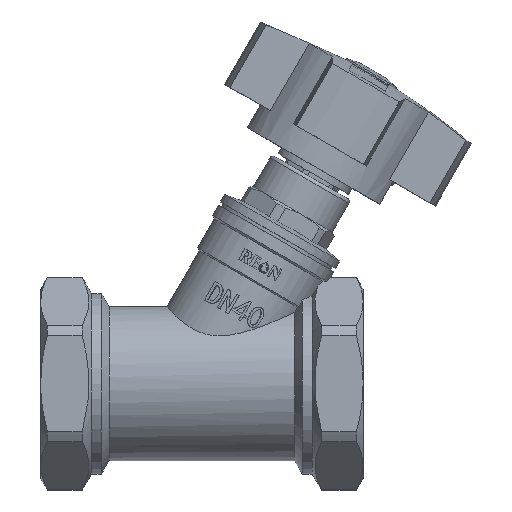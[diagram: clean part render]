
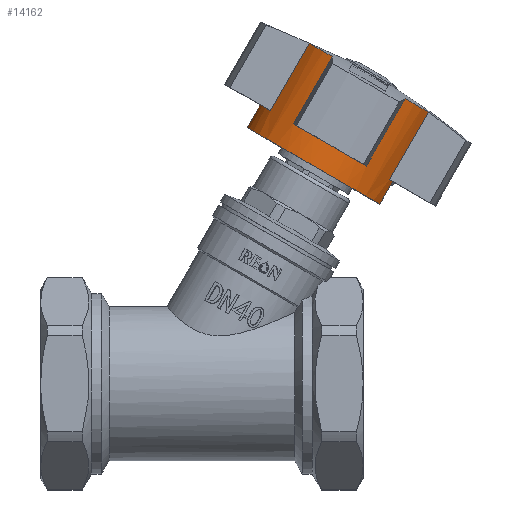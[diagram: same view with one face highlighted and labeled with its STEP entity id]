
A CAD part, top view. The second image highlights one B-rep face of the part: STEP entity #14162.
In plain terms, the highlighted cylindrical face has radius 23 mm (diameter 46 mm), a partial arc.
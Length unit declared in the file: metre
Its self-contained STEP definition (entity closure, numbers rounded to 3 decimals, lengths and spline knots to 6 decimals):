
#1362=CIRCLE('',#15225,0.023);
#1366=CIRCLE('',#15229,0.023);
#1370=CIRCLE('',#15233,0.023);
#1374=CIRCLE('',#15237,0.023);
#1452=CIRCLE('',#15336,0.023);
#1455=CIRCLE('',#15340,0.023);
#1458=CIRCLE('',#15344,0.023);
#1459=CIRCLE('',#15345,0.023);
#1463=CIRCLE('',#15351,0.023);
#1466=CIRCLE('',#15355,0.023);
#2110=FACE_OUTER_BOUND('',#3008,.T.);
#3008=EDGE_LOOP('',(#10675,#10676,#10677,#10678,#10679,#10680,#10681,#10682,
#10683,#10684,#10685,#10686,#10687,#10688,#10689,#10690,#10691,#10692,#10693,
#10694));
#4119=LINE('',#30393,#4986);
#4120=LINE('',#30396,#4987);
#4121=LINE('',#30397,#4988);
#4122=LINE('',#30398,#4989);
#4123=LINE('',#30399,#4990);
#4124=LINE('',#30400,#4991);
#4125=LINE('',#30401,#4992);
#4126=LINE('',#30402,#4993);
#4127=LINE('',#30403,#4994);
#4128=LINE('',#30404,#4995);
#4986=VECTOR('',#17696,1.);
#4987=VECTOR('',#17699,1.);
#4988=VECTOR('',#17700,1.);
#4989=VECTOR('',#17701,1.);
#4990=VECTOR('',#17702,1.);
#4991=VECTOR('',#17703,1.);
#4992=VECTOR('',#17704,1.);
#4993=VECTOR('',#17705,1.);
#4994=VECTOR('',#17706,1.);
#4995=VECTOR('',#17707,1.);
#6003=VERTEX_POINT('',#30045);
#6004=VERTEX_POINT('',#30047);
#6007=VERTEX_POINT('',#30053);
#6008=VERTEX_POINT('',#30055);
#6011=VERTEX_POINT('',#30061);
#6012=VERTEX_POINT('',#30063);
#6015=VERTEX_POINT('',#30069);
#6016=VERTEX_POINT('',#30071);
#6131=VERTEX_POINT('',#30325);
#6132=VERTEX_POINT('',#30327);
#6137=VERTEX_POINT('',#30339);
#6138=VERTEX_POINT('',#30341);
#6143=VERTEX_POINT('',#30353);
#6144=VERTEX_POINT('',#30355);
#6145=VERTEX_POINT('',#30358);
#6146=VERTEX_POINT('',#30360);
#6153=VERTEX_POINT('',#30378);
#6154=VERTEX_POINT('',#30380);
#6159=VERTEX_POINT('',#30392);
#6160=VERTEX_POINT('',#30394);
#7666=EDGE_CURVE('',#6004,#6003,#1362,.T.);
#7670=EDGE_CURVE('',#6008,#6007,#1366,.T.);
#7674=EDGE_CURVE('',#6012,#6011,#1370,.T.);
#7678=EDGE_CURVE('',#6016,#6015,#1374,.T.);
#7797=EDGE_CURVE('',#6132,#6131,#1452,.T.);
#7804=EDGE_CURVE('',#6138,#6137,#1455,.T.);
#7811=EDGE_CURVE('',#6144,#6143,#1458,.T.);
#7814=EDGE_CURVE('',#6146,#6145,#1459,.T.);
#7825=EDGE_CURVE('',#6153,#6154,#1463,.T.);
#7830=EDGE_CURVE('',#6159,#6143,#4119,.T.);
#7831=EDGE_CURVE('',#6160,#6159,#1466,.T.);
#7832=EDGE_CURVE('',#6146,#6160,#4120,.T.);
#7833=EDGE_CURVE('',#6016,#6145,#4121,.T.);
#7834=EDGE_CURVE('',#6015,#6138,#4122,.T.);
#7835=EDGE_CURVE('',#6012,#6137,#4123,.T.);
#7836=EDGE_CURVE('',#6011,#6132,#4124,.T.);
#7837=EDGE_CURVE('',#6008,#6131,#4125,.T.);
#7838=EDGE_CURVE('',#6007,#6153,#4126,.T.);
#7839=EDGE_CURVE('',#6004,#6154,#4127,.T.);
#7840=EDGE_CURVE('',#6003,#6144,#4128,.T.);
#10675=ORIENTED_EDGE('',*,*,#7830,.F.);
#10676=ORIENTED_EDGE('',*,*,#7831,.F.);
#10677=ORIENTED_EDGE('',*,*,#7832,.F.);
#10678=ORIENTED_EDGE('',*,*,#7814,.T.);
#10679=ORIENTED_EDGE('',*,*,#7833,.F.);
#10680=ORIENTED_EDGE('',*,*,#7678,.T.);
#10681=ORIENTED_EDGE('',*,*,#7834,.T.);
#10682=ORIENTED_EDGE('',*,*,#7804,.T.);
#10683=ORIENTED_EDGE('',*,*,#7835,.F.);
#10684=ORIENTED_EDGE('',*,*,#7674,.T.);
#10685=ORIENTED_EDGE('',*,*,#7836,.T.);
#10686=ORIENTED_EDGE('',*,*,#7797,.T.);
#10687=ORIENTED_EDGE('',*,*,#7837,.F.);
#10688=ORIENTED_EDGE('',*,*,#7670,.T.);
#10689=ORIENTED_EDGE('',*,*,#7838,.T.);
#10690=ORIENTED_EDGE('',*,*,#7825,.T.);
#10691=ORIENTED_EDGE('',*,*,#7839,.F.);
#10692=ORIENTED_EDGE('',*,*,#7666,.T.);
#10693=ORIENTED_EDGE('',*,*,#7840,.T.);
#10694=ORIENTED_EDGE('',*,*,#7811,.T.);
#13705=CYLINDRICAL_SURFACE('',#15354,0.023);
#14162=ADVANCED_FACE('',(#2110),#13705,.T.);
#15225=AXIS2_PLACEMENT_3D('',#30048,#17376,#17377);
#15229=AXIS2_PLACEMENT_3D('',#30056,#17384,#17385);
#15233=AXIS2_PLACEMENT_3D('',#30064,#17392,#17393);
#15237=AXIS2_PLACEMENT_3D('',#30072,#17400,#17401);
#15336=AXIS2_PLACEMENT_3D('',#30328,#17639,#17640);
#15340=AXIS2_PLACEMENT_3D('',#30342,#17651,#17652);
#15344=AXIS2_PLACEMENT_3D('',#30356,#17663,#17664);
#15345=AXIS2_PLACEMENT_3D('',#30361,#17667,#17668);
#15351=AXIS2_PLACEMENT_3D('',#30382,#17686,#17687);
#15354=AXIS2_PLACEMENT_3D('',#30391,#17694,#17695);
#15355=AXIS2_PLACEMENT_3D('',#30395,#17697,#17698);
#17376=DIRECTION('center_axis',(-0.5,-0.866,0.));
#17377=DIRECTION('ref_axis',(0.,0.,-1.));
#17384=DIRECTION('center_axis',(-0.5,-0.866,0.));
#17385=DIRECTION('ref_axis',(0.866,-0.5,0.));
#17392=DIRECTION('center_axis',(-0.5,-0.866,0.));
#17393=DIRECTION('ref_axis',(0.866,-0.5,0.));
#17400=DIRECTION('center_axis',(-0.5,-0.866,0.));
#17401=DIRECTION('ref_axis',(0.,0.,
-1.));
#17639=DIRECTION('center_axis',(-0.5,-0.866,0.));
#17640=DIRECTION('ref_axis',(0.866,-0.5,0.));
#17651=DIRECTION('center_axis',(-0.5,-0.866,0.));
#17652=DIRECTION('ref_axis',(0.866,-0.5,0.));
#17663=DIRECTION('center_axis',(-0.5,-0.866,0.));
#17664=DIRECTION('ref_axis',(0.866,-0.5,0.));
#17667=DIRECTION('center_axis',(-0.5,-0.866,0.));
#17668=DIRECTION('ref_axis',(0.866,-0.5,0.));
#17686=DIRECTION('center_axis',(-0.5,-0.866,0.));
#17687=DIRECTION('ref_axis',(0.866,-0.5,0.));
#17694=DIRECTION('center_axis',(-0.5,-0.866,0.));
#17695=DIRECTION('ref_axis',(-0.866,0.5,0.));
#17696=DIRECTION('',(0.5,0.866,0.));
#17697=DIRECTION('center_axis',(-0.5,-0.866,0.));
#17698=DIRECTION('ref_axis',(0.866,-0.5,0.));
#17699=DIRECTION('',(-0.5,-0.866,0.));
#17700=DIRECTION('',(-0.5,-0.866,0.));
#17701=DIRECTION('',(-0.5,-0.866,0.));
#17702=DIRECTION('',(-0.5,-0.866,0.));
#17703=DIRECTION('',(-0.5,-0.866,0.));
#17704=DIRECTION('',(-0.5,-0.866,0.));
#17705=DIRECTION('',(-0.5,-0.866,0.));
#17706=DIRECTION('',(-0.5,-0.866,0.));
#17707=DIRECTION('',(-0.5,-0.866,0.));
#30045=CARTESIAN_POINT('',(0.064615,0.077494,-0.012));
#30047=CARTESIAN_POINT('',(0.058015,0.081305,-0.019621));
#30048=CARTESIAN_POINT('Origin',(0.047623,0.087305,
0.));
#30053=CARTESIAN_POINT('',(0.03723,0.093305,-0.019621));
#30055=CARTESIAN_POINT('',(0.03063,0.097116,-0.012));
#30056=CARTESIAN_POINT('Origin',(0.047623,0.087305,
0.));
#30061=CARTESIAN_POINT('',(0.03063,0.097116,0.012));
#30063=CARTESIAN_POINT('',(0.03723,0.093305,0.019621));
#30064=CARTESIAN_POINT('Origin',(0.047623,0.087305,
0.));
#30069=CARTESIAN_POINT('',(0.058015,0.081305,0.019621));
#30071=CARTESIAN_POINT('',(0.064615,0.077494,0.012));
#30072=CARTESIAN_POINT('Origin',(0.047623,0.087305,
0.));
#30325=CARTESIAN_POINT('',(0.019534,0.077898,-0.012));
#30327=CARTESIAN_POINT('',(0.019534,0.077898,0.012));
#30328=CARTESIAN_POINT('Origin',(0.036527,0.068087,
0.));
#30339=CARTESIAN_POINT('',(0.026135,0.074087,0.019621));
#30341=CARTESIAN_POINT('',(0.046919,0.062087,0.019621));
#30342=CARTESIAN_POINT('Origin',(0.036527,0.068087,
0.));
#30353=CARTESIAN_POINT('',(0.054464,0.057731,-0.01));
#30355=CARTESIAN_POINT('',(0.05352,0.058276,-0.012));
#30356=CARTESIAN_POINT('Origin',(0.036527,0.068087,
0.));
#30358=CARTESIAN_POINT('',(0.05352,0.058276,0.012));
#30360=CARTESIAN_POINT('',(0.054464,0.057731,0.01));
#30361=CARTESIAN_POINT('Origin',(0.036527,0.068087,
0.));
#30378=CARTESIAN_POINT('',(0.026135,0.074087,-0.019621));
#30380=CARTESIAN_POINT('',(0.046919,0.062087,-0.019621));
#30382=CARTESIAN_POINT('Origin',(0.036527,0.068087,
0.));
#30391=CARTESIAN_POINT('Origin',(0.031777,0.05986,
0.));
#30392=CARTESIAN_POINT('',(0.050714,0.051236,-0.01));
#30393=CARTESIAN_POINT('',(0.049714,0.049504,-0.01));
#30394=CARTESIAN_POINT('',(0.050714,0.051236,0.01));
#30395=CARTESIAN_POINT('Origin',(0.032777,0.061592,
0.));
#30396=CARTESIAN_POINT('',(0.049714,0.049504,0.01));
#30397=CARTESIAN_POINT('',(0.06527,0.078628,0.012));
#30398=CARTESIAN_POINT('',(0.058669,0.082439,0.019621));
#30399=CARTESIAN_POINT('',(0.037885,0.094439,0.019621));
#30400=CARTESIAN_POINT('',(0.031284,0.098249,0.012));
#30401=CARTESIAN_POINT('',(0.031284,0.098249,-0.012));
#30402=CARTESIAN_POINT('',(0.037885,0.094439,-0.019621));
#30403=CARTESIAN_POINT('',(0.058669,0.082439,-0.019621));
#30404=CARTESIAN_POINT('',(0.06527,0.078628,-0.012));
